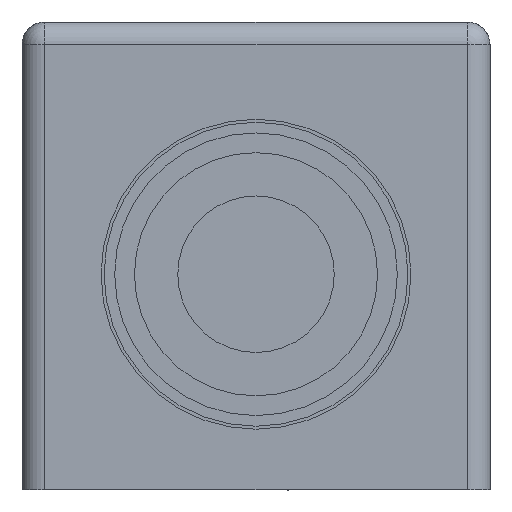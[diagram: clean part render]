
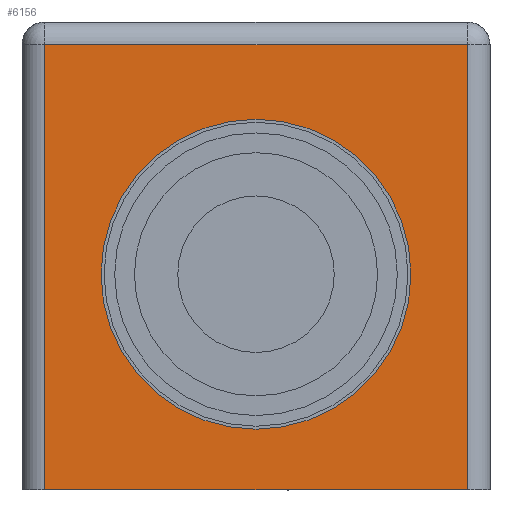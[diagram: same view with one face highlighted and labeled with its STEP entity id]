
A CAD part, front view. The second image highlights one B-rep face of the part: STEP entity #6156.
In plain terms, the highlighted planar face has unit normal (0, -1, 0).
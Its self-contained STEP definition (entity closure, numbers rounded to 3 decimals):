
#4962 = CARTESIAN_POINT ( 'NONE',  ( 0., -51.5, -8.2 ) ) ;
#4972 = DIRECTION ( 'NONE',  ( 0., 0., -1. ) ) ;
#4973 = DIRECTION ( 'NONE',  ( 0., -1., 0. ) ) ;
#4974 = CARTESIAN_POINT ( 'NONE',  ( 0., -51.5, 2. ) ) ;
#4975 = AXIS2_PLACEMENT_3D ( 'NONE', #4974, #4973, #4972 ) ;
#4976 = CIRCLE ( 'NONE', #4975, 10.2 ) ;
#4977 = CARTESIAN_POINT ( 'NONE',  ( 0., -51.5, 12.2 ) ) ;
#5009 = DIRECTION ( 'NONE',  ( 1., 0., 0. ) ) ;
#5010 = VECTOR ( 'NONE', #5009, 1000. ) ;
#5011 = CARTESIAN_POINT ( 'NONE',  ( 0., -51.5, -12.2 ) ) ;
#5012 = LINE ( 'NONE', #5011, #5010 ) ;
#5017 = CARTESIAN_POINT ( 'NONE',  ( -13.9, -51.5, -12.2 ) ) ;
#5074 = CARTESIAN_POINT ( 'NONE',  ( 13.9, -51.5, -12.2 ) ) ;
#6156 = ADVANCED_FACE ( 'NONE', ( #11850, #11849 ), #11848, .F. ) ;
#6157 = EDGE_LOOP ( 'NONE', ( #6158, #6160 ) ) ;
#6158 = ORIENTED_EDGE ( 'NONE', *, *, #6159, .F. ) ;
#6159 = EDGE_CURVE ( 'NONE', #11276, #11266, #11842, .T. ) ;
#6160 = ORIENTED_EDGE ( 'NONE', *, *, #11271, .F. ) ;
#6220 = EDGE_LOOP ( 'NONE', ( #6221, #6222, #6225, #6228 ) ) ;
#6221 = ORIENTED_EDGE ( 'NONE', *, *, #11324, .T. ) ;
#6222 = ORIENTED_EDGE ( 'NONE', *, *, #6223, .F. ) ;
#6223 = EDGE_CURVE ( 'NONE', #6224, #11325, #11980, .T. ) ;
#6224 = VERTEX_POINT ( 'NONE', #11976 ) ;
#6225 = ORIENTED_EDGE ( 'NONE', *, *, #6226, .T. ) ;
#6226 = EDGE_CURVE ( 'NONE', #6224, #6227, #11975, .T. ) ;
#6227 = VERTEX_POINT ( 'NONE', #11971 ) ;
#6228 = ORIENTED_EDGE ( 'NONE', *, *, #6229, .T. ) ;
#6229 = EDGE_CURVE ( 'NONE', #6227, #11321, #11970, .T. ) ;
#11266 = VERTEX_POINT ( 'NONE', #4977 ) ;
#11271 = EDGE_CURVE ( 'NONE', #11266, #11276, #4976, .T. ) ;
#11276 = VERTEX_POINT ( 'NONE', #4962 ) ;
#11321 = VERTEX_POINT ( 'NONE', #5017 ) ;
#11324 = EDGE_CURVE ( 'NONE', #11321, #11325, #5012, .T. ) ;
#11325 = VERTEX_POINT ( 'NONE', #5074 ) ;
#11839 = DIRECTION ( 'NONE',  ( 0., 0., -1. ) ) ;
#11840 = DIRECTION ( 'NONE',  ( 0., -1., 0. ) ) ;
#11841 = AXIS2_PLACEMENT_3D ( 'NONE', #11846, #11840, #11839 ) ;
#11842 = CIRCLE ( 'NONE', #11841, 10.2 ) ;
#11843 = DIRECTION ( 'NONE',  ( 0., 0., 1. ) ) ;
#11844 = DIRECTION ( 'NONE',  ( 0., 1., 0. ) ) ;
#11845 = CARTESIAN_POINT ( 'NONE',  ( 0., -51.5, 18.6 ) ) ;
#11846 = CARTESIAN_POINT ( 'NONE',  ( 0., -51.5, 2. ) ) ;
#11847 = AXIS2_PLACEMENT_3D ( 'NONE', #11845, #11844, #11843 ) ;
#11848 = PLANE ( 'NONE',  #11847 ) ;
#11849 = FACE_OUTER_BOUND ( 'NONE', #6220, .T. ) ;
#11850 = FACE_BOUND ( 'NONE', #6157, .T. ) ;
#11967 = DIRECTION ( 'NONE',  ( 0., 0., -1. ) ) ;
#11968 = VECTOR ( 'NONE', #11967, 1000. ) ;
#11969 = CARTESIAN_POINT ( 'NONE',  ( -13.9, -51.5, 18.6 ) ) ;
#11970 = LINE ( 'NONE', #11969, #11968 ) ;
#11971 = CARTESIAN_POINT ( 'NONE',  ( -13.9, -51.5, 17.1 ) ) ;
#11972 = DIRECTION ( 'NONE',  ( -1., 0., 0. ) ) ;
#11973 = VECTOR ( 'NONE', #11972, 1000. ) ;
#11974 = CARTESIAN_POINT ( 'NONE',  ( 0., -51.5, 17.1 ) ) ;
#11975 = LINE ( 'NONE', #11974, #11973 ) ;
#11976 = CARTESIAN_POINT ( 'NONE',  ( 13.9, -51.5, 17.1 ) ) ;
#11977 = DIRECTION ( 'NONE',  ( 0., 0., -1. ) ) ;
#11978 = VECTOR ( 'NONE', #11977, 1000. ) ;
#11979 = CARTESIAN_POINT ( 'NONE',  ( 13.9, -51.5, 18.6 ) ) ;
#11980 = LINE ( 'NONE', #11979, #11978 ) ;
